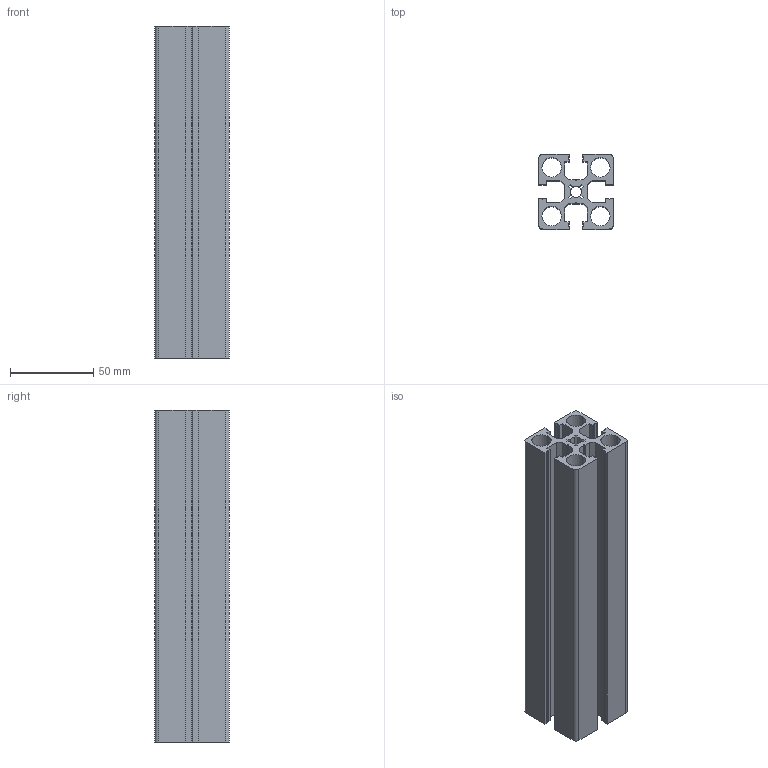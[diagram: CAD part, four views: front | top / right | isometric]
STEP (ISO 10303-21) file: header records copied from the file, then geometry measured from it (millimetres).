
FILE_DESCRIPTION (( 'STEP AP203' ), '1' );
FILE_NAME ('006510 REF 4545L.STEP', '2015-12-01T11:54:09', ( '' ), ( '' ), 'SwSTEP 2.0', 'SolidWorks 2015', '' );
FILE_SCHEMA (( 'CONFIG_CONTROL_DESIGN' ));
Length unit declared in the file: millimetre
Products named in the file (1): 006510 REF 4545L
Bounding box: 45 x 45 x 200 mm (x, y, z)
Volume: 164924.9 mm3; surface area: 105422.4 mm2
Topology: 1 solids, 1 shells, 116 faces, 342 edges, 228 vertices
Faces by surface type: plane 70, cylinder 30, bspline 16
Entity records: 4359 total; most frequent: CARTESIAN_POINT 1215, ORIENTED_EDGE 684, DIRECTION 572, EDGE_CURVE 342, LINE 250, VECTOR 250, VERTEX_POINT 228, AXIS2_PLACEMENT_3D 161
